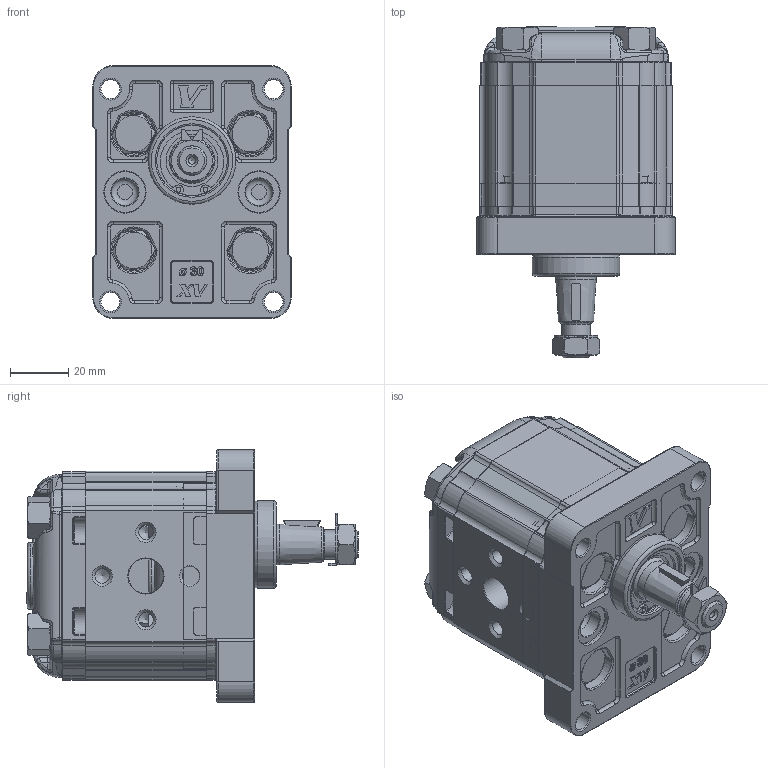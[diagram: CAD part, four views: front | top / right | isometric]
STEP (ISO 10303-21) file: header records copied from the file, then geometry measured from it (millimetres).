
FILE_DESCRIPTION( ( 'Unknown' ), '1' );
FILE_NAME( 'P:/montaggio_easy/output/STP/X1P1612GIIA.stp', 'Unknown', ( 'Unknown' ), ( 'Unknown' ), 'PSStep 14.0', 'Unknown', ' ' );
FILE_SCHEMA( ( 'AUTOMOTIVE_DESIGN { 1 0 10303 214 1 1 1 1 }' ) );
Length unit declared in the file: millimetre
Products named in the file (5): Assem1; X1P12; 1G; X1IIH41,5; XP113-A
Bounding box: 68 x 113.9 x 86.7 mm (x, y, z)
Volume: 641131.2 mm3; surface area: 143586.2 mm2
Topology: 8 solids, 10 shells, 3956 faces, 10140 edges, 6410 vertices
Faces by surface type: plane 1712, cylinder 1038, torus 442, extrusion 304, cone 232, bspline 212, sphere 16
Full cylindrical faces by diameter (mm): 1.678 x4, 2.5 x2, 3 x10, 5 x16, 6.5 x8, 8 x16, 8.5 x12, 9 x4, 9.3 x4, 10 x4, 10.25 x2, 10.5 x4, 12 x12, 13.955 x2, 14 x4, 14.5 x4, 14.923 x2, 17.115 x2, 17.833 x2, 20 x2, 22 x2, 24 x4, 24.2 x2, 25.5 x2, 30 x2
Entity records: 82472 total; most frequent: CARTESIAN_POINT 19929, ORIENTED_EDGE 9630, DIRECTION 9487, EDGE_CURVE 4815, AXIS2_PLACEMENT_3D 3398, VERTEX_POINT 3133, VECTOR 2691, LINE 2539
